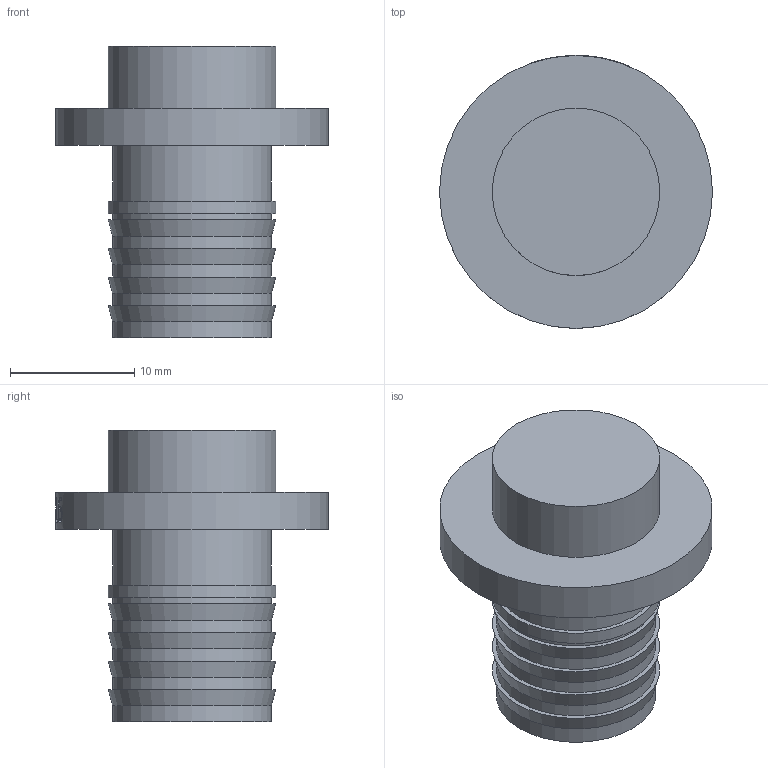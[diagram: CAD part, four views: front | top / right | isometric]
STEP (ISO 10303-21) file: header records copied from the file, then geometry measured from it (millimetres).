
FILE_DESCRIPTION(/* description */ (''),/* implementation_level */ '2;1');
FILE_NAME(/* name */ 'C:\Users\Doom\Desktop\Фадотех\Натяжка\SFZ01_NEW 16 21.08.2020\SFZ01_NEW 16 21.08.2020.stp',/* time_stamp */ '2022-07-26T16:27:13+03:00',/* author */ ('Doom'),/* organization */ (''),/* preprocessor_version */ 'ST-DEVELOPER v18',/* originating_system */ 'Autodesk Inventor 2020',/* authorisation */ '');
FILE_SCHEMA (('AUTOMOTIVE_DESIGN { 1 0 10303 214 3 1 1 }'));
Length unit declared in the file: millimetre
Products named in the file (1): 16 Model 18.12.2019
Bounding box: 22 x 22 x 23.5 mm (x, y, z)
Volume: 2571 mm3; surface area: 2439.7 mm2
Topology: 1 solids, 1 shells, 81 faces, 217 edges, 151 vertices
Faces by surface type: plane 35, bspline 25, cylinder 15, cone 6
Full cylindrical faces by diameter (mm): 9.3 x1, 12.8 x6, 13.5 x2, 22 x1
Entity records: 3211 total; most frequent: CARTESIAN_POINT 1214, ORIENTED_EDGE 432, DIRECTION 358, EDGE_CURVE 216, VERTEX_POINT 151, AXIS2_PLACEMENT_3D 135, EDGE_LOOP 95, LINE 88
